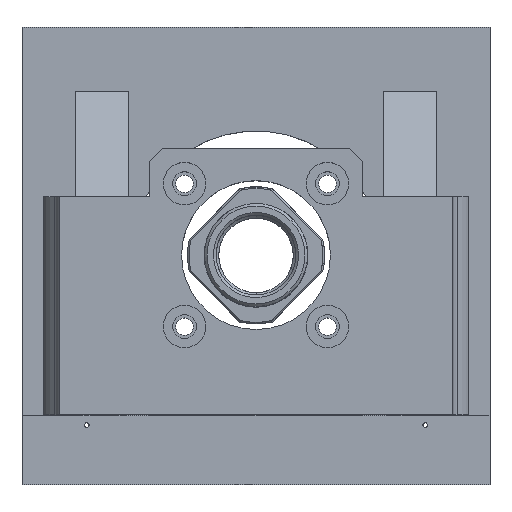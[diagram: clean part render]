
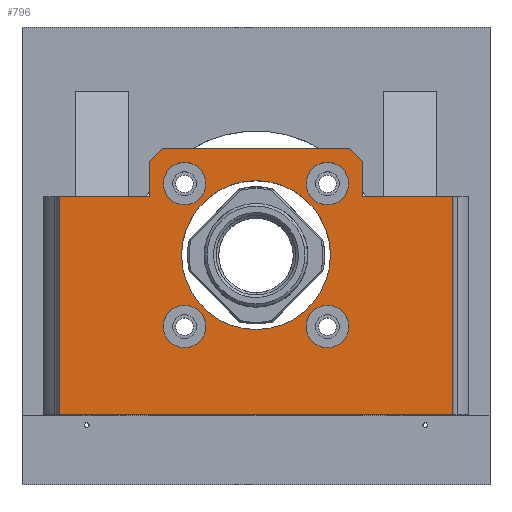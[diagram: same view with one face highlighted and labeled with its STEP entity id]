
A CAD part, top view. The second image highlights one B-rep face of the part: STEP entity #796.
In plain terms, the highlighted planar face has unit normal (0, 0, 1).
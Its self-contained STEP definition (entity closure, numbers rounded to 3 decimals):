
#796=ADVANCED_FACE('',(#1547,#1548,#1549,#1550,#1551,#1552),#1001,.T.);
#1001=PLANE('',#4037);
#1123=LINE('',#5495,#1345);
#1131=LINE('',#5543,#1353);
#1136=LINE('',#5562,#1358);
#1139=LINE('',#5568,#1361);
#1142=LINE('',#5574,#1364);
#1148=LINE('',#5585,#1370);
#1151=LINE('',#5591,#1373);
#1155=LINE('',#5598,#1377);
#1160=LINE('',#5625,#1382);
#1169=LINE('',#5662,#1391);
#1345=VECTOR('',#4456,1.);
#1353=VECTOR('',#4502,1.);
#1358=VECTOR('',#4521,1.);
#1361=VECTOR('',#4526,1.);
#1364=VECTOR('',#4531,1.);
#1370=VECTOR('',#4539,1.);
#1373=VECTOR('',#4544,1.);
#1377=VECTOR('',#4550,1.);
#1382=VECTOR('',#4575,1.);
#1391=VECTOR('',#4610,1.);
#1547=FACE_BOUND('',#1768,.T.);
#1548=FACE_BOUND('',#1769,.T.);
#1549=FACE_BOUND('',#1770,.T.);
#1550=FACE_BOUND('',#1771,.T.);
#1551=FACE_BOUND('',#1772,.T.);
#1552=FACE_BOUND('',#1773,.T.);
#1768=EDGE_LOOP('',(#2247));
#1769=EDGE_LOOP('',(#2248));
#1770=EDGE_LOOP('',(#2249));
#1771=EDGE_LOOP('',(#2250));
#1772=EDGE_LOOP('',(#2251));
#1773=EDGE_LOOP('',(#2252,#2253,#2254,#2255,#2256,#2257,#2258,#2259,#2260,
#2261));
#2247=ORIENTED_EDGE('',*,*,#3380,.F.);
#2248=ORIENTED_EDGE('',*,*,#3378,.F.);
#2249=ORIENTED_EDGE('',*,*,#3376,.F.);
#2250=ORIENTED_EDGE('',*,*,#3461,.F.);
#2251=ORIENTED_EDGE('',*,*,#3336,.F.);
#2252=ORIENTED_EDGE('',*,*,#3405,.F.);
#2253=ORIENTED_EDGE('',*,*,#3408,.T.);
#2254=ORIENTED_EDGE('',*,*,#3411,.F.);
#2255=ORIENTED_EDGE('',*,*,#3417,.T.);
#2256=ORIENTED_EDGE('',*,*,#3420,.T.);
#2257=ORIENTED_EDGE('',*,*,#3372,.F.);
#2258=ORIENTED_EDGE('',*,*,#3424,.T.);
#2259=ORIENTED_EDGE('',*,*,#3438,.T.);
#2260=ORIENTED_EDGE('',*,*,#3459,.F.);
#2261=ORIENTED_EDGE('',*,*,#3395,.F.);
#3006=VERTEX_POINT('',#5422);
#3024=VERTEX_POINT('',#5463);
#3038=VERTEX_POINT('',#5494);
#3042=VERTEX_POINT('',#5504);
#3044=VERTEX_POINT('',#5509);
#3046=VERTEX_POINT('',#5514);
#3059=VERTEX_POINT('',#5542);
#3060=VERTEX_POINT('',#5544);
#3067=VERTEX_POINT('',#5563);
#3069=VERTEX_POINT('',#5569);
#3071=VERTEX_POINT('',#5575);
#3075=VERTEX_POINT('',#5586);
#3078=VERTEX_POINT('',#5597);
#3090=VERTEX_POINT('',#5624);
#3107=VERTEX_POINT('',#5667);
#3336=EDGE_CURVE('',#3006,#3006,#3772,.T.);
#3372=EDGE_CURVE('',#3038,#3024,#1123,.T.);
#3376=EDGE_CURVE('',#3042,#3042,#3785,.T.);
#3378=EDGE_CURVE('',#3044,#3044,#3787,.T.);
#3380=EDGE_CURVE('',#3046,#3046,#3789,.T.);
#3395=EDGE_CURVE('',#3059,#3060,#1131,.T.);
#3405=EDGE_CURVE('',#3067,#3059,#1136,.T.);
#3408=EDGE_CURVE('',#3067,#3069,#1139,.T.);
#3411=EDGE_CURVE('',#3071,#3069,#1142,.T.);
#3417=EDGE_CURVE('',#3071,#3075,#1148,.T.);
#3420=EDGE_CURVE('',#3075,#3024,#1151,.T.);
#3424=EDGE_CURVE('',#3038,#3078,#1155,.T.);
#3438=EDGE_CURVE('',#3078,#3090,#1160,.T.);
#3459=EDGE_CURVE('',#3060,#3090,#1169,.T.);
#3461=EDGE_CURVE('',#3107,#3107,#3824,.T.);
#3772=CIRCLE('',#3963,14.);
#3785=CIRCLE('',#3982,4.);
#3787=CIRCLE('',#3985,4.);
#3789=CIRCLE('',#3988,4.);
#3824=CIRCLE('',#4034,4.);
#3963=AXIS2_PLACEMENT_3D('',#5421,#4400,#4401);
#3982=AXIS2_PLACEMENT_3D('',#5503,#4465,#4466);
#3985=AXIS2_PLACEMENT_3D('',#5508,#4471,#4472);
#3988=AXIS2_PLACEMENT_3D('',#5513,#4477,#4478);
#4034=AXIS2_PLACEMENT_3D('',#5666,#4615,#4616);
#4037=AXIS2_PLACEMENT_3D('',#5671,#4622,#4623);
#4400=DIRECTION('',(0.,0.,1.));
#4401=DIRECTION('',(1.,0.,0.));
#4456=DIRECTION('',(1.,0.,0.));
#4465=DIRECTION('',(0.,0.,1.));
#4466=DIRECTION('',(1.,0.,0.));
#4471=DIRECTION('',(0.,0.,1.));
#4472=DIRECTION('',(1.,0.,0.));
#4477=DIRECTION('',(0.,0.,1.));
#4478=DIRECTION('',(1.,0.,0.));
#4502=DIRECTION('',(1.,0.,0.));
#4521=DIRECTION('',(0.,-1.,0.));
#4526=DIRECTION('',(-0.707,0.707,0.));
#4531=DIRECTION('',(1.,0.,0.));
#4539=DIRECTION('',(-0.707,-0.707,0.));
#4544=DIRECTION('',(0.,-1.,0.));
#4550=DIRECTION('',(0.,-1.,0.));
#4575=DIRECTION('',(1.,0.,0.));
#4610=DIRECTION('',(0.,-1.,0.));
#4615=DIRECTION('',(0.,0.,1.));
#4616=DIRECTION('',(1.,0.,0.));
#4622=DIRECTION('',(0.,0.,1.));
#4623=DIRECTION('',(-1.,0.,0.));
#5421=CARTESIAN_POINT('',(0.,0.,153.));
#5422=CARTESIAN_POINT('',(14.,0.,153.));
#5463=CARTESIAN_POINT('',(-20.,11.,153.));
#5494=CARTESIAN_POINT('',(-37.,11.,153.));
#5495=CARTESIAN_POINT('',(0.,11.,153.));
#5503=CARTESIAN_POINT('',(-13.435,-13.435,153.));
#5504=CARTESIAN_POINT('',(-9.435,-13.435,153.));
#5508=CARTESIAN_POINT('',(13.435,-13.435,153.));
#5509=CARTESIAN_POINT('',(17.435,-13.435,153.));
#5513=CARTESIAN_POINT('',(13.435,13.435,153.));
#5514=CARTESIAN_POINT('',(17.435,13.435,153.));
#5542=CARTESIAN_POINT('',(20.,11.,153.));
#5543=CARTESIAN_POINT('',(0.,11.,153.));
#5544=CARTESIAN_POINT('',(37.,11.,153.));
#5562=CARTESIAN_POINT('',(20.,-74.607,153.));
#5563=CARTESIAN_POINT('',(20.,17.5,153.));
#5568=CARTESIAN_POINT('',(56.054,-18.554,153.));
#5569=CARTESIAN_POINT('',(17.5,20.,153.));
#5574=CARTESIAN_POINT('',(0.,20.,153.));
#5575=CARTESIAN_POINT('',(-17.5,20.,153.));
#5585=CARTESIAN_POINT('',(-56.054,-18.554,153.));
#5586=CARTESIAN_POINT('',(-20.,17.5,153.));
#5591=CARTESIAN_POINT('',(-20.,-74.607,153.));
#5597=CARTESIAN_POINT('',(-37.,-30.,153.));
#5598=CARTESIAN_POINT('',(-37.,-74.607,153.));
#5624=CARTESIAN_POINT('',(37.,-30.,153.));
#5625=CARTESIAN_POINT('',(0.,-30.,153.));
#5662=CARTESIAN_POINT('',(37.,-74.607,153.));
#5666=CARTESIAN_POINT('',(-13.435,13.435,153.));
#5667=CARTESIAN_POINT('',(-9.435,13.435,153.));
#5671=CARTESIAN_POINT('',(0.,-74.607,153.));
